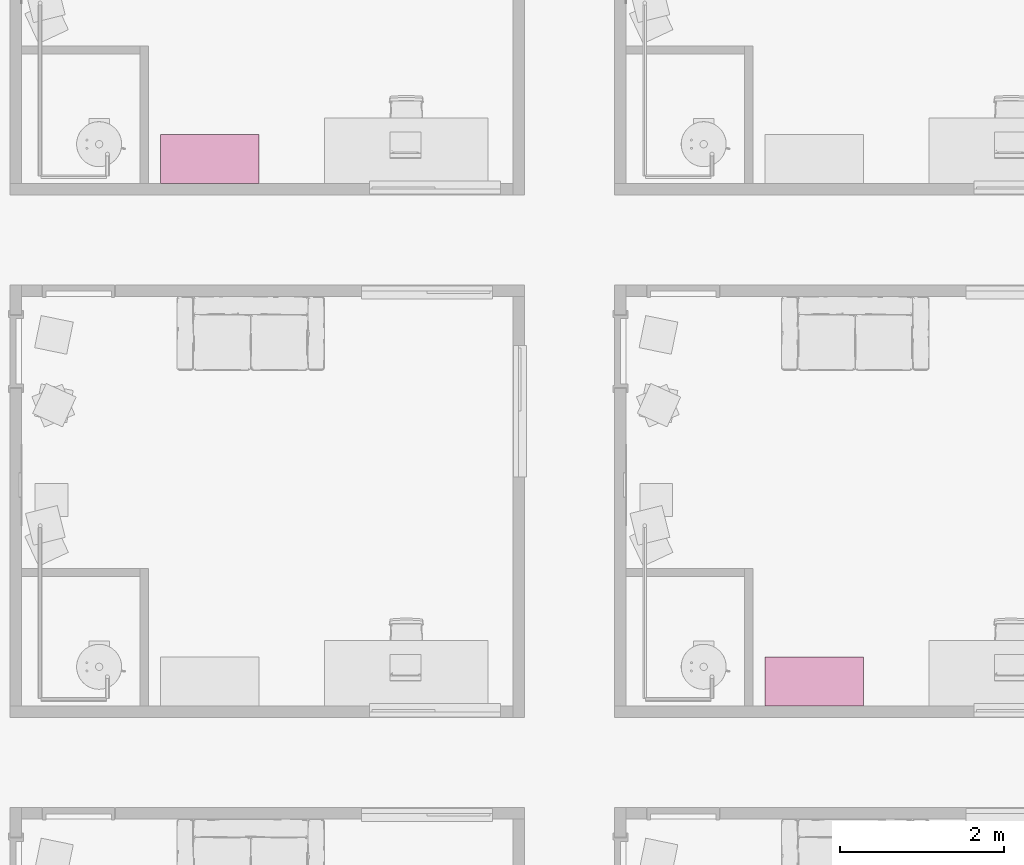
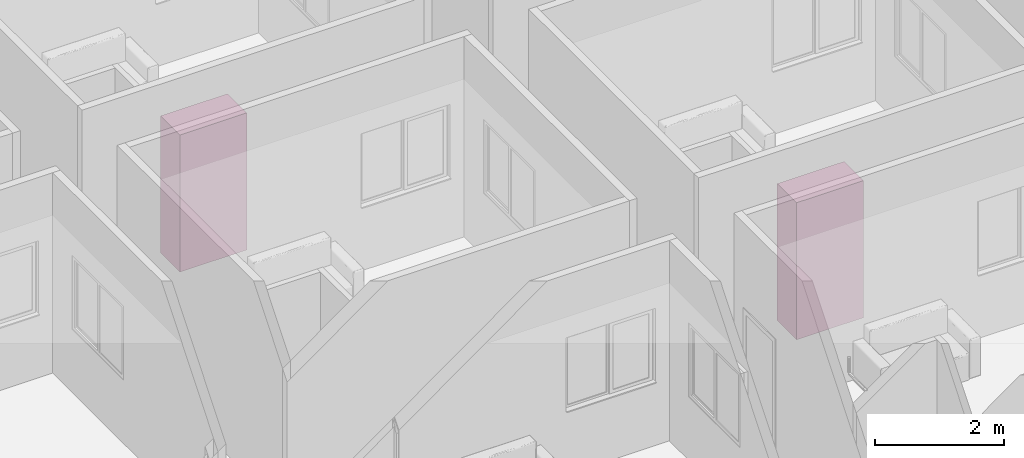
# One storey, part 64 of 72: 2 furniture elements.
"""IFC4 building model written with IfcOpenShell, lengths in centimetres."""

from ifc_helpers import new_model, entity, si_unit, converted_unit, derived_unit, direction, frame, origin, place, context, subcontext, project, spatial, indexed_curve, outline, extrude, source, transform, mapped, material, type_object, type_shapes, element, save


model = new_model("IFC4")

# Units and contexts
model_context = context("Model", 3, precision=0.001, world=origin(), true_north=direction((6.123233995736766e-17, 1.0)))
body_context = subcontext(model_context, "Body", "Model", "MODEL_VIEW")
ifc_project = project(units=[si_unit("LENGTHUNIT", "METRE", prefix="CENTI"), si_unit("AREAUNIT", "SQUARE_METRE"), si_unit("VOLUMEUNIT", "CUBIC_METRE"), derived_unit("THERMALTRANSMITTANCEUNIT", [(si_unit("MASSUNIT", "GRAM", prefix="KILO"), 1), (si_unit("THERMODYNAMICTEMPERATUREUNIT", "KELVIN"), -1), (si_unit("TIMEUNIT", "SECOND"), -3)]), converted_unit("PLANEANGLEUNIT", "DEGREE", entity("IfcPlaneAngleMeasure", 0.017453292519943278), si_unit("PLANEANGLEUNIT", "RADIAN"), dimensions=[0, 0, 0, 0, 0, 0, 0]), derived_unit("MASSDENSITYUNIT", [(si_unit("MASSUNIT", "GRAM", prefix="KILO"), 1), (si_unit("LENGTHUNIT", "METRE"), -3)]), derived_unit("VAPORPERMEABILITYUNIT", [(si_unit("LENGTHUNIT", "METRE"), -1), (si_unit("TIMEUNIT", "SECOND"), 1)]), derived_unit("USERDEFINED", [(si_unit("MASSUNIT", "GRAM", prefix="KILO"), 1), (si_unit("TIMEUNIT", "SECOND"), -3), (si_unit("LENGTHUNIT", "METRE"), 3), (si_unit("ELECTRICCURRENTUNIT", "AMPERE"), -2)]), derived_unit("SPECIFICHEATCAPACITYUNIT", [(si_unit("THERMODYNAMICTEMPERATUREUNIT", "KELVIN"), -1), (si_unit("LENGTHUNIT", "METRE"), 2), (si_unit("TIMEUNIT", "SECOND"), -2)]), derived_unit("THERMALCONDUCTANCEUNIT", [(si_unit("MASSUNIT", "GRAM", prefix="KILO"), 1), (si_unit("THERMODYNAMICTEMPERATUREUNIT", "KELVIN"), -1), (si_unit("TIMEUNIT", "SECOND"), -3), (si_unit("LENGTHUNIT", "METRE"), 1)]), si_unit("PRESSUREUNIT", "PASCAL"), derived_unit("MODULUSOFELASTICITYUNIT", [(si_unit("MASSUNIT", "GRAM", prefix="KILO"), 1), (si_unit("LENGTHUNIT", "METRE"), -1), (si_unit("TIMEUNIT", "SECOND"), -2)]), derived_unit("THERMALEXPANSIONCOEFFICIENTUNIT", [(si_unit("THERMODYNAMICTEMPERATUREUNIT", "KELVIN"), -1)])], contexts=[model_context])

# Site, building, storey, space
site_placement = place(None, origin())
site = spatial("IfcSite", under=ifc_project, at=site_placement, Name="Default", CompositionType="ELEMENT")
building_placement = place(site_placement, origin())
building = spatial("IfcBuilding", under=site, at=building_placement, Name="IDS Escape Game Building", CompositionType="ELEMENT")
storey_placement = place(building_placement, frame((0.0, 0.0, 800.0)))
storey = spatial("IfcBuildingStorey", under=building, at=storey_placement, Name="02_Second Floor", CompositionType="ELEMENT", Elevation=800.0)
space_1_placement = place(storey_placement, origin())
space_1 = spatial("IfcSpace", under=storey, at=space_1_placement, Name="95", CompositionType="ELEMENT", PredefinedType="NOTDEFINED")

# Furniture
ifc_material = material(Name="<Unnamed>")
furniture_type = type_object("IfcFurnitureType", Name="BPL_82.11_CA_UN_kast_gen_BERSnl:type 1", AssemblyPlace="NOTDEFINED", PredefinedType="NOTDEFINED", material=ifc_material)
shared_shape = source(origin(), body_context, "Body", "SweptSolid", [
    extrude(outline(indexed_curve([(-59.99999999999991, -29.999999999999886), (59.99999999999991, -29.999999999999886), (59.99999999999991, 29.999999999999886), (-59.99999999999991, 29.999999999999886), (-59.99999999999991, -29.999999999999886)], self_intersect=False)), frame((-60.0, -30.0, 0.0), z_axis=(0.0, 0.0, 1.0), x_axis=(-1.0, 0.0, 0.0)), (0.0, 0.0, 1.0), 260.0),
])
type_shapes(furniture_type, [shared_shape])
furniture_1_placement = place(space_1_placement, frame((2511.0, 1987.0, 0.0)))
element("IfcFurniture", 1, at=furniture_1_placement, inside=space_1, type_object=furniture_type, material=ifc_material, Name="BPL_82.11_CA_UN_kast_gen_BERSnl:type 1", ObjectType="BPL_82.11_CA_UN_kast_gen_BERSnl:type 1", PredefinedType="NOTDEFINED", context=body_context, shape_type="MappedRepresentation", body=[
    mapped(shared_shape, transform((0.0, 0.0, 0.0), scale=1.0)),
])

# Space
space_2_placement = place(storey_placement, origin())
space_2 = spatial("IfcSpace", under=storey, at=space_2_placement, Name="101", CompositionType="ELEMENT", PredefinedType="NOTDEFINED")

# Furniture
furniture_2_placement = place(space_2_placement, frame((1773.0, 2625.0, 0.0)))
element("IfcFurniture", 2, at=furniture_2_placement, inside=space_2, type_object=furniture_type, material=ifc_material, Name="BPL_82.11_CA_UN_kast_gen_BERSnl:type 1", ObjectType="BPL_82.11_CA_UN_kast_gen_BERSnl:type 1", PredefinedType="NOTDEFINED", context=body_context, shape_type="MappedRepresentation", body=[
    mapped(shared_shape, transform((0.0, 0.0, 0.0), scale=1.0)),
])

save(model, "model.ifc")
